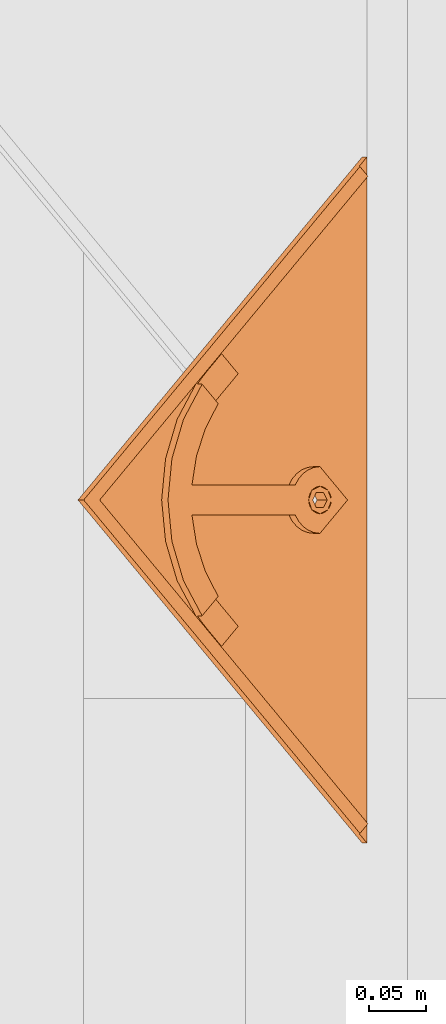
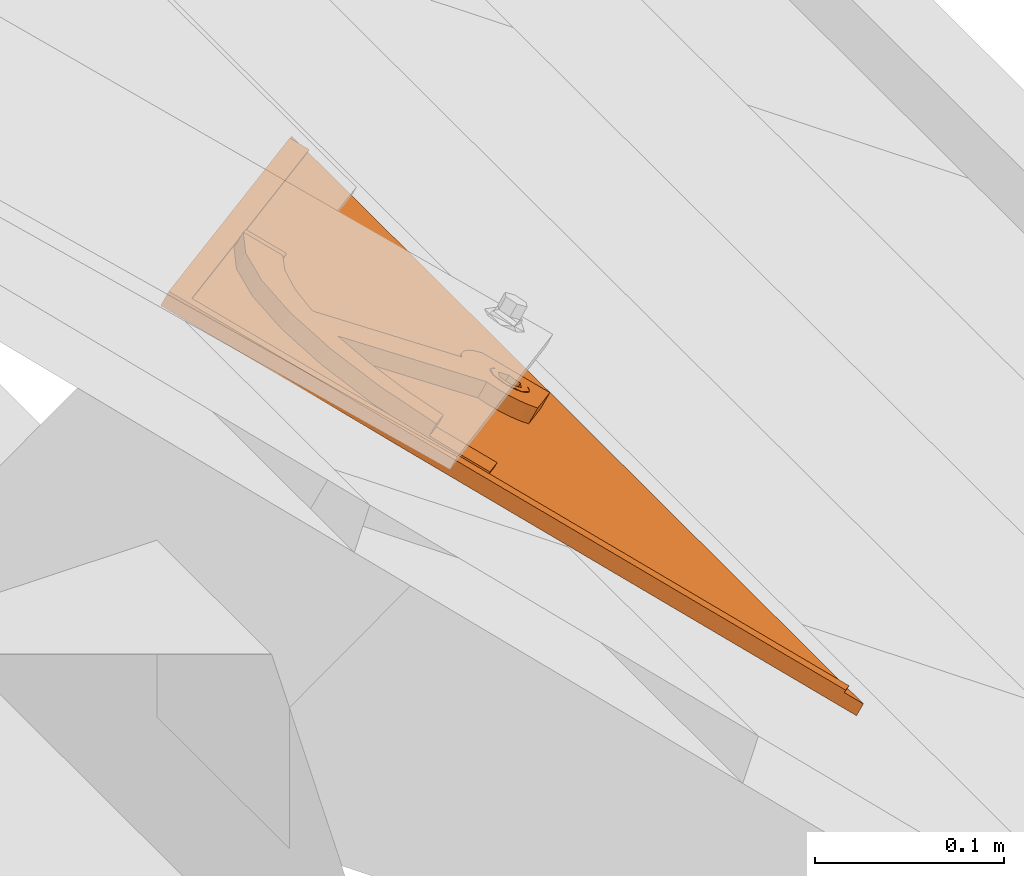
# One storey, part 118 of 133: 1 proxy.
"""IFC2X3 building model written with IfcOpenShell, lengths in millimetres."""

from ifc_helpers import new_model, entity, si_unit, converted_unit, derived_unit, direction, frame, origin, place, context, subcontext, project, spatial, faceted_brep, source, transform, mapped, material, material_list, type_object, type_shapes, element, save


model = new_model("IFC2X3")

# Units and contexts
model_context = context("Model", 3, precision=0.01, world=origin(), true_north=direction((6.12303176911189e-17, 1.0)))
body_context = subcontext(model_context, "Body", "Model", "MODEL_VIEW")
ifc_project = project(units=[si_unit("LENGTHUNIT", "METRE", prefix="MILLI"), si_unit("AREAUNIT", "SQUARE_METRE"), si_unit("VOLUMEUNIT", "CUBIC_METRE"), converted_unit("PLANEANGLEUNIT", "DEGREE", entity("IfcRatioMeasure", 0.0174532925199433), si_unit("PLANEANGLEUNIT", "RADIAN"), dimensions=[0, 0, 0, 0, 0, 0, 0]), si_unit("MASSUNIT", "GRAM", prefix="KILO"), derived_unit("MASSDENSITYUNIT", [(si_unit("MASSUNIT", "GRAM", prefix="KILO"), 1), (si_unit("LENGTHUNIT", "METRE"), -3)]), si_unit("TIMEUNIT", "SECOND"), si_unit("FREQUENCYUNIT", "HERTZ"), si_unit("THERMODYNAMICTEMPERATUREUNIT", "DEGREE_CELSIUS"), derived_unit("THERMALTRANSMITTANCEUNIT", [(si_unit("MASSUNIT", "GRAM", prefix="KILO"), 1), (si_unit("THERMODYNAMICTEMPERATUREUNIT", "KELVIN"), -1), (si_unit("TIMEUNIT", "SECOND"), -3)]), derived_unit("VOLUMETRICFLOWRATEUNIT", [(si_unit("LENGTHUNIT", "METRE"), 3), (si_unit("TIMEUNIT", "SECOND"), -1)]), si_unit("ELECTRICCURRENTUNIT", "AMPERE"), si_unit("ELECTRICVOLTAGEUNIT", "VOLT"), si_unit("POWERUNIT", "WATT"), si_unit("FORCEUNIT", "NEWTON", prefix="KILO"), si_unit("ILLUMINANCEUNIT", "LUX"), si_unit("LUMINOUSFLUXUNIT", "LUMEN"), si_unit("LUMINOUSINTENSITYUNIT", "CANDELA"), derived_unit("USERDEFINED", [(si_unit("MASSUNIT", "GRAM", prefix="KILO"), -1), (si_unit("LENGTHUNIT", "METRE"), -2), (si_unit("TIMEUNIT", "SECOND"), 3), (si_unit("LUMINOUSFLUXUNIT", "LUMEN"), 1)]), derived_unit("LINEARVELOCITYUNIT", [(si_unit("LENGTHUNIT", "METRE"), 1), (si_unit("TIMEUNIT", "SECOND"), -1)]), si_unit("PRESSUREUNIT", "PASCAL"), derived_unit("USERDEFINED", [(si_unit("LENGTHUNIT", "METRE"), -2), (si_unit("MASSUNIT", "GRAM", prefix="KILO"), 1), (si_unit("TIMEUNIT", "SECOND"), -2)])], contexts=[model_context])

# Site, building, storey
site_placement = place(None, origin())
site = spatial("IfcSite", under=ifc_project, at=site_placement, Name="Default", CompositionType="ELEMENT")
building_placement = place(site_placement, origin())
building = spatial("IfcBuilding", under=site, at=building_placement, CompositionType="ELEMENT")
storey_placement = place(building_placement, origin())
storey = spatial("IfcBuildingStorey", under=building, at=storey_placement, Name="Level 1", CompositionType="ELEMENT", Elevation=0.0)

# Proxy
ifc_material_1 = material(Name="Rubber - Sunstyle - Black")
ifc_material_2 = material(Name="Glass - Sunstyle - Tainted Black")
ifc_material_list_1 = material_list([ifc_material_1, ifc_material_2])
ifc_material_list_2 = material_list([ifc_material_1, ifc_material_2])
building_element_proxy_type = type_object("IfcBuildingElementProxyType", Name="Shingle Bottom Small - Black", PredefinedType="NOTDEFINED", material=ifc_material_list_2)
shared_shape = source(origin(), body_context, "Body", "Brep", [
    faceted_brep([(302.08842791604, 44.9093317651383, 22.0558382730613), (302.08842791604, 49.408700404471, 21.980485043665), (293.484723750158, 48.4726030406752, 21.9961623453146), (310.692132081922, 48.4726030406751, 21.9961623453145), (308.728656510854, 53.2419006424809, 21.9162884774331), (314.255903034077, 57.0751008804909, 21.8520919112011), (308.728656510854, 60.9083011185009, 21.7878953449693), (310.692132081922, 65.6775987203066, 21.7080214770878), (302.08842791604, 64.7415013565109, 21.7236987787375), (302.08842791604, 69.2408699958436, 21.6483455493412), (293.484723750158, 65.6775987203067, 21.708021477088), (295.448199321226, 60.908301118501, 21.7878953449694), (289.920952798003, 57.0751008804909, 21.8520919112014), (295.448199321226, 53.2419006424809, 21.9162884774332), (295.448199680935, 60.6403782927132, 5.79013870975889), (302.08842791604, 64.473578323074, 5.72594214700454), (295.448199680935, 52.9739782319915, 5.91853183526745), (302.08842791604, 49.1407782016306, 5.98272839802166), (308.728656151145, 52.9739782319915, 5.91853183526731), (308.728656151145, 60.6403782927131, 5.79013870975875), (293.484723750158, 48.2046804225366, 5.99840570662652), (302.08842791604, 44.6414091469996, 6.05808163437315), (289.920952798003, 56.8071782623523, 5.85433527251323), (293.484723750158, 65.4096761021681, 5.71026483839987), (302.08842791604, 68.972947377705, 5.65058891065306), (310.692132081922, 65.409676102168, 5.71026483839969), (314.255903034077, 56.8071782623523, 5.85433527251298), (310.692132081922, 48.2046804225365, 5.99840570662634)], [[[0, 1, 2]], [[1, 0, 3]], [[3, 4, 1]], [[4, 3, 5]], [[6, 4, 5]], [[5, 7, 6]], [[7, 8, 6]], [[8, 7, 9]], [[8, 9, 10]], [[10, 11, 8]], [[12, 11, 10]], [[2, 13, 12]], [[12, 13, 11]], [[13, 2, 1]], [[8, 11, 14, 15]], [[11, 13, 16, 14]], [[13, 1, 17, 16]], [[1, 4, 18, 17]], [[4, 6, 19, 18]], [[6, 8, 15, 19]], [[20, 17, 21]], [[17, 20, 16]], [[22, 16, 20]], [[14, 16, 22]], [[23, 14, 22]], [[15, 14, 23]], [[23, 24, 15]], [[24, 25, 15]], [[19, 15, 25]], [[19, 25, 26]], [[26, 18, 19]], [[26, 27, 18]], [[17, 18, 27]], [[27, 21, 17]], [[24, 23, 10, 9]], [[10, 23, 22, 12]], [[20, 21, 0, 2]], [[20, 2, 12, 22]], [[21, 27, 3, 0]], [[3, 27, 26, 5]], [[25, 24, 9, 7]], [[25, 7, 5, 26]]]),
    faceted_brep([(587.35835892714, 0.0, 12.5593198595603), (595.843045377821, 8.4846864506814, 12.4172224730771), (595.843045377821, 8.50980419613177, 13.9170121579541), (587.35835892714, 0.0251177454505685, 14.0591095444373), (302.088750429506, 285.189618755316, 7.7831033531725), (16.8191419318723, 0.0, 12.5593198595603), (8.33445548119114, 8.48468645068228, 12.4172224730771), (302.088750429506, 302.156612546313, 7.49894842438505), (302.088750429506, 302.181730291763, 8.9987381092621), (8.33445548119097, 8.50980419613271, 13.9170121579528), (16.8191419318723, 0.0251177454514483, 14.0591095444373), (302.088750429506, 285.214736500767, 9.28289303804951)], [[[0, 1, 2, 3]], [[1, 0, 4, 5, 6, 7]], [[2, 1, 7, 8]], [[3, 2, 8, 9, 10, 11]], [[0, 3, 11, 4]], [[5, 10, 9, 6]], [[8, 7, 6, 9]], [[4, 11, 10, 5]]]),
    faceted_brep([(302.088750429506, 302.156612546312, 7.49894842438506), (305.194256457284, 68.3255429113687, 11.4150370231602), (308.088427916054, 67.1269059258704, 11.4351112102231), (302.088427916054, 68.7343756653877, 11.4081900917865), (310.573709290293, 65.2201498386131, 11.4670446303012), (298.982599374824, 68.3255429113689, 11.4150370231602), (296.088427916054, 67.1269059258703, 11.4351112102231), (293.603146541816, 65.2201498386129, 11.4670446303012), (312.480732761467, 62.7352169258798, 11.5086610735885), (604.177500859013, 0.152567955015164, 12.5567647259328), (291.696123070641, 62.7352169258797, 11.5086610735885), (0.0, 0.152567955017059, 12.5567647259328), (290.497318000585, 59.8414512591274, 11.5571244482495), (290.088427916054, 56.7360581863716, 11.6091320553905), (290.497318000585, 53.6306651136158, 11.6611396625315), (291.696123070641, 50.7368994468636, 11.7096030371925), (293.603146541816, 48.2519665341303, 11.7512194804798), (296.088427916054, 46.3452104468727, 11.7831529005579), (298.982599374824, 45.1465734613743, 11.8032270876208), (302.088427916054, 44.7377407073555, 11.8100740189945), (313.679537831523, 59.8414512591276, 11.5571244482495), (314.088427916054, 56.7360581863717, 11.6091320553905), (313.679537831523, 53.6306651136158, 11.6611396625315), (312.480732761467, 50.7368994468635, 11.7096030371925), (310.573709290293, 48.2519665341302, 11.7512194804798), (308.088427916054, 46.3452104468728, 11.7831529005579), (305.194256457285, 45.1465734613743, 11.8032270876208), (0.0, 0.0269792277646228, 5.0578163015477), (290.088427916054, 56.6104694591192, 4.11018363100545), (290.497318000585, 53.5050763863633, 4.16219123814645), (290.497318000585, 59.7158625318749, 4.05817602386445), (291.696123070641, 50.6113107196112, 4.21065461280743), (291.696123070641, 62.6096281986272, 4.00971264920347), (302.088750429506, 302.031023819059, 0.0), (293.603146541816, 48.1263778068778, 4.25227105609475), (296.088427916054, 46.2196217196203, 4.28420447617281), (298.982599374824, 45.0209847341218, 4.30427866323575), (302.088427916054, 44.612151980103, 4.31112559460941), (604.177500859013, 0.0269792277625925, 5.05781630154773), (293.603146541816, 65.0945611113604, 3.96809620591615), (296.088427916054, 67.0013171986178, 3.93616278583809), (298.982599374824, 68.1999541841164, 3.91608859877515), (302.088427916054, 68.6087869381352, 3.90924166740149), (305.194256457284, 68.1999541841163, 3.91608859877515), (308.088427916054, 67.0013171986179, 3.93616278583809), (310.573709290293, 65.0945611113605, 3.96809620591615), (312.480732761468, 62.6096281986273, 4.00971264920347), (305.194256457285, 45.0209847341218, 4.30427866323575), (308.088427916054, 46.2196217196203, 4.28420447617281), (313.679537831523, 59.7158625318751, 4.05817602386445), (314.088427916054, 56.6104694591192, 4.11018363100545), (313.679537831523, 53.5050763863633, 4.16219123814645), (312.480732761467, 50.611310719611, 4.21065461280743), (310.573709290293, 48.1263778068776, 4.25227105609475)], [[[0, 1, 2]], [[1, 0, 3]], [[0, 2, 4]], [[5, 3, 0]], [[6, 5, 0]], [[0, 7, 6]], [[8, 0, 4]], [[0, 8, 9]], [[7, 0, 10]], [[0, 11, 10]], [[12, 10, 11]], [[11, 13, 12]], [[13, 11, 14]], [[15, 14, 11]], [[11, 16, 15]], [[17, 16, 11]], [[17, 11, 18]], [[19, 18, 11]], [[19, 11, 9]], [[9, 8, 20]], [[20, 21, 9]], [[21, 22, 9]], [[22, 23, 9]], [[9, 23, 24]], [[24, 25, 9]], [[25, 26, 9]], [[9, 26, 19]], [[27, 28, 29]], [[28, 27, 30]], [[27, 29, 31]], [[32, 30, 27]], [[32, 27, 33]], [[31, 34, 27]], [[34, 35, 27]], [[35, 36, 27]], [[36, 37, 27]], [[27, 37, 38]], [[33, 39, 32]], [[40, 39, 33]], [[41, 40, 33]], [[42, 41, 33]], [[33, 43, 42]], [[43, 33, 44]], [[45, 44, 33]], [[33, 46, 45]], [[46, 33, 38]], [[38, 37, 47]], [[47, 48, 38]], [[49, 46, 38]], [[38, 50, 49]], [[50, 38, 51]], [[52, 51, 38]], [[53, 52, 38]], [[53, 38, 48]], [[11, 0, 33, 27]], [[0, 9, 38, 33]], [[13, 28, 30, 12]], [[12, 30, 32, 10]], [[6, 7, 39, 40]], [[39, 7, 10, 32]], [[5, 6, 40, 41]], [[5, 41, 42, 3]], [[3, 42, 43, 1]], [[1, 43, 44, 2]], [[8, 4, 45, 46]], [[45, 4, 2, 44]], [[20, 8, 46, 49]], [[20, 49, 50, 21]], [[21, 50, 51, 22]], [[22, 51, 52, 23]], [[25, 24, 53, 48]], [[53, 24, 23, 52]], [[26, 25, 48, 47]], [[26, 47, 37, 19]], [[19, 37, 36, 18]], [[18, 36, 35, 17]], [[15, 16, 34, 31]], [[34, 16, 17, 35]], [[14, 15, 31, 29]], [[14, 29, 28, 13]], [[9, 11, 27, 38]]]),
    faceted_brep([(190.819384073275, 138.646056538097, 12.7376939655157), (217.144031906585, 164.967013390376, 12.2968834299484), (200.060856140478, 182.04779392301, 12.0108228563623), (193.80845410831, 176.686146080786, 12.100617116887), (187.837458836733, 171.012871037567, 12.1956303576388), (173.141714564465, 156.321247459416, 12.4416784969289), (431.035141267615, 156.321247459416, 12.4416784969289), (416.339396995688, 171.012871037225, 12.1956303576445), (410.36840172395, 176.686146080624, 12.1006171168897), (404.115999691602, 182.047793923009, 12.0108228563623), (387.031626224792, 164.968210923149, 12.2968633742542), (413.357471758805, 138.646056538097, 12.7376939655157), (296.088427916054, 67.294357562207, 21.4337091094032), (288.788427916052, 83.1076295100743, 21.1688761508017), (283.384321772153, 79.569581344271, 21.2281296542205), (293.603146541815, 65.3876014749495, 21.4656425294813), (298.982599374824, 68.4929945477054, 21.4136349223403), (302.088427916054, 68.9018273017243, 21.4067879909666), (315.388427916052, 83.107629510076, 21.1688761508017), (305.194256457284, 68.4929945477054, 21.4136349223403), (308.088427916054, 67.2943575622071, 21.4337091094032), (320.792534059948, 79.5695813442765, 21.2281296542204), (310.573709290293, 65.3876014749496, 21.4656425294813), (325.293078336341, 74.9365758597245, 21.3057209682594), (312.480732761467, 62.9026685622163, 21.5072589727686), (328.672647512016, 69.4324252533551, 21.3979017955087), (313.679537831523, 60.0089028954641, 21.5557223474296), (330.767980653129, 63.323025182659, 21.500219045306), (314.088427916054, 56.9035098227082, 21.6077299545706), (331.477855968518, 56.9035098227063, 21.6077299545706), (313.679537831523, 53.7981167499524, 21.6597375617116), (312.480732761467, 50.9043510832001, 21.7082009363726), (310.573709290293, 48.4194181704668, 21.7498173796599), (302.08842791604, 27.5182024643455, 22.0998607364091), (308.088427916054, 46.5126620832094, 21.7817507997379), (305.194256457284, 45.314025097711, 21.8018249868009), (302.088427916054, 44.9051923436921, 21.8086719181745), (298.982599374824, 45.314025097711, 21.8018249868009), (296.088427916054, 46.5126620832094, 21.7817507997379), (293.603146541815, 48.4194181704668, 21.7498173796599), (272.69899986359, 56.903509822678, 21.6077299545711), (291.696123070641, 50.9043510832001, 21.7082009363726), (290.497318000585, 53.7981167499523, 21.6597375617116), (290.088427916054, 56.9035098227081, 21.6077299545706), (273.408875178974, 63.3230251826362, 21.5002190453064), (290.497318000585, 60.008902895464, 21.5557223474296), (275.504208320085, 69.4324252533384, 21.397901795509), (291.696123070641, 62.9026685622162, 21.5072589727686), (278.883777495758, 74.9365758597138, 21.3057209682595), (288.788427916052, 192.984512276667, 19.3287117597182), (315.388427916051, 192.984512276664, 19.3287117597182), (302.088427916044, 218.456125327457, 18.9021256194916), (338.579268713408, 214.282159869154, 18.9720291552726), (340.858170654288, 188.169632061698, 19.4093490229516), (373.184513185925, 201.975945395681, 19.1781276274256), (365.012761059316, 178.765998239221, 19.5668364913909), (404.115999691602, 182.173382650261, 19.5097712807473), (387.032823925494, 165.092602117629, 19.7958318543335), (265.59758711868, 214.28215986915, 18.9720291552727), (263.318685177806, 188.169632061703, 19.4093490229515), (230.992342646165, 201.975945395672, 19.1781276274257), (239.164094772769, 178.765998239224, 19.5668364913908), (200.06085614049, 182.173382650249, 19.5097712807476), (217.144031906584, 165.092602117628, 19.7958318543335), (302.08842791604, 27.3507508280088, 12.1012628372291), (302.088427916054, 44.7377407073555, 11.8100740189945), (305.194256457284, 45.1465734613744, 11.8032270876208), (298.982599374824, 45.1465734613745, 11.8032270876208), (308.088427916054, 46.3452104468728, 11.7831529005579), (310.573709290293, 48.2519665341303, 11.7512194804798), (331.477855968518, 56.7360581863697, 11.6091320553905), (296.088427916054, 46.3452104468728, 11.7831529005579), (293.603146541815, 48.2519665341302, 11.7512194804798), (272.69899986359, 56.7360581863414, 11.609132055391), (291.696123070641, 50.7368994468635, 11.7096030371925), (290.497318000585, 53.6306651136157, 11.6611396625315), (290.088427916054, 56.7360581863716, 11.6091320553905), (273.408875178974, 63.1555735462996, 11.5016211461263), (290.497318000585, 59.8414512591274, 11.5571244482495), (275.504208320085, 69.2649736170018, 11.3993038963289), (291.696123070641, 62.7352169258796, 11.5086610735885), (278.883777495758, 74.7691242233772, 11.3071230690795), (293.603146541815, 65.2201498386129, 11.4670446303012), (283.384321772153, 79.4021297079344, 11.2295317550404), (296.088427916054, 67.1269059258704, 11.4351112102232), (288.788427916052, 82.9401778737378, 11.1702782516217), (298.982599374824, 68.3255429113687, 11.4150370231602), (302.088427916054, 68.7343756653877, 11.4081900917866), (315.388427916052, 82.9401778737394, 11.1702782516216), (288.788427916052, 192.81706064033, 9.33011386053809), (315.388427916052, 192.817060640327, 9.33011386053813), (302.088427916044, 218.28867369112, 8.90352772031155), (265.59758711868, 214.114708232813, 8.97343125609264), (263.318685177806, 188.002180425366, 9.41075112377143), (230.992342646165, 201.808493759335, 9.17952972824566), (239.164094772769, 178.598546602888, 9.56823859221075), (200.06085614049, 182.005931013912, 9.51117338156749), (217.145229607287, 164.926348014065, 9.79721389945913), (193.80845410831, 176.644283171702, 9.60096764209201), (187.837458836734, 170.971008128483, 9.69598088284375), (190.819384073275, 138.604193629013, 10.2380444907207), (173.141714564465, 156.279384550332, 9.94202902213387), (338.579268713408, 214.114708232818, 8.97343125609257), (340.858170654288, 188.002180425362, 9.41075112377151), (373.184513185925, 201.808493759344, 9.17952972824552), (365.012761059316, 178.598546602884, 9.5682385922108), (404.115999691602, 182.005931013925, 9.51117338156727), (387.032823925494, 164.925150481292, 9.79723395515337), (410.36840172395, 176.64428317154, 9.60096764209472), (416.339396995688, 170.971008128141, 9.69598088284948), (413.357471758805, 138.604193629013, 10.2380444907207), (431.035141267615, 156.279384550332, 9.94202902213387), (305.194256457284, 68.3255429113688, 11.4150370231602), (308.088427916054, 67.1269059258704, 11.4351112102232), (320.792534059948, 79.4021297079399, 11.2295317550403), (310.573709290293, 65.220149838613, 11.4670446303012), (325.293078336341, 74.7691242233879, 11.3071230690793), (312.480732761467, 62.7352169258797, 11.5086610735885), (328.672647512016, 69.2649736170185, 11.3993038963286), (313.679537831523, 59.8414512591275, 11.5571244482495), (330.767980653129, 63.1555735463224, 11.5016211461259), (314.088427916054, 56.7360581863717, 11.6091320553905), (312.480732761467, 50.7368994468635, 11.7096030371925), (313.679537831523, 53.6306651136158, 11.6611396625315)], [[[0, 1, 2, 3, 4, 5]], [[6, 7, 8, 9, 10, 11]], [[12, 13, 14]], [[12, 14, 15]], [[16, 13, 12]], [[17, 13, 16]], [[18, 13, 17]], [[17, 19, 18]], [[19, 20, 18]], [[20, 21, 18]], [[21, 20, 22]], [[21, 22, 23]], [[24, 23, 22]], [[23, 24, 25]], [[24, 26, 25]], [[27, 25, 26]], [[26, 28, 27]], [[29, 27, 28]], [[28, 30, 29]], [[30, 31, 29]], [[29, 31, 32]], [[32, 33, 29]], [[32, 34, 33]], [[35, 33, 34]], [[36, 33, 35]], [[33, 36, 37]], [[38, 33, 37]], [[38, 39, 33]], [[40, 33, 39]], [[41, 40, 39]], [[41, 42, 40]], [[42, 43, 40]], [[43, 44, 40]], [[45, 44, 43]], [[45, 46, 44]], [[45, 47, 46]], [[48, 46, 47]], [[48, 47, 15]], [[48, 15, 14]], [[18, 49, 13]], [[50, 49, 18]], [[51, 49, 50]], [[50, 52, 51]], [[50, 53, 52]], [[52, 53, 54]], [[53, 55, 54]], [[56, 54, 55]], [[57, 56, 55]], [[58, 49, 51]], [[49, 58, 59]], [[60, 59, 58]], [[60, 61, 59]], [[61, 60, 62]], [[62, 63, 61]], [[64, 65, 66]], [[65, 64, 67]], [[64, 66, 68]], [[68, 69, 64]], [[64, 69, 70]], [[71, 67, 64]], [[71, 64, 72]], [[72, 64, 73]], [[73, 74, 72]], [[74, 73, 75]], [[75, 73, 76]], [[77, 76, 73]], [[76, 77, 78]], [[78, 77, 79]], [[80, 78, 79]], [[81, 80, 79]], [[82, 80, 81]], [[83, 82, 81]], [[83, 84, 82]], [[85, 84, 83]], [[85, 86, 84]], [[87, 86, 85]], [[88, 87, 85]], [[89, 88, 85]], [[88, 89, 90]], [[89, 91, 90]], [[91, 89, 92]], [[93, 92, 89]], [[92, 93, 94]], [[95, 94, 93]], [[96, 94, 95]], [[95, 97, 96]], [[97, 98, 96]], [[98, 97, 99]], [[97, 100, 99]], [[99, 100, 101]], [[90, 91, 102]], [[103, 90, 102]], [[103, 102, 104]], [[105, 103, 104]], [[106, 105, 104]], [[107, 105, 106]], [[106, 108, 107]], [[109, 107, 108]], [[110, 107, 109]], [[109, 111, 110]], [[112, 87, 88]], [[113, 112, 88]], [[114, 113, 88]], [[115, 113, 114]], [[115, 114, 116]], [[116, 117, 115]], [[117, 116, 118]], [[118, 119, 117]], [[120, 119, 118]], [[121, 120, 70]], [[120, 121, 119]], [[70, 69, 122]], [[122, 123, 70]], [[123, 121, 70]], [[13, 49, 89, 85]], [[14, 13, 85, 83]], [[48, 14, 83, 81]], [[81, 79, 46, 48]], [[44, 46, 79, 77]], [[40, 44, 77, 73]], [[33, 40, 73, 64]], [[0, 5, 101, 100]], [[29, 33, 64, 70]], [[6, 11, 110, 111]], [[27, 29, 70, 120]], [[25, 27, 120, 118]], [[118, 116, 23, 25]], [[21, 23, 116, 114]], [[18, 21, 114, 88]], [[50, 18, 88, 90]], [[9, 106, 104, 54, 56]], [[52, 54, 104, 102]], [[51, 52, 102, 91]], [[58, 51, 91, 92]], [[94, 96, 2, 62, 60]], [[60, 58, 92, 94]], [[43, 76, 78, 45]], [[45, 78, 80, 47]], [[12, 15, 82, 84]], [[80, 82, 15, 47]], [[16, 12, 84, 86]], [[87, 17, 16, 86]], [[19, 112, 113, 20]], [[20, 113, 115, 22]], [[26, 24, 117, 119]], [[115, 117, 24, 22]], [[28, 26, 119, 121]], [[19, 17, 87, 112]], [[28, 121, 123, 30]], [[30, 123, 122, 31]], [[34, 32, 69, 68]], [[122, 69, 32, 31]], [[35, 34, 68, 66]], [[65, 36, 35, 66]], [[37, 67, 71, 38]], [[38, 71, 72, 39]], [[42, 41, 74, 75]], [[72, 74, 41, 39]], [[43, 42, 75, 76]], [[37, 36, 65, 67]], [[7, 6, 111, 109]], [[7, 109, 108, 8]], [[108, 106, 9, 8]], [[11, 10, 107, 110]], [[1, 0, 100, 97]], [[2, 96, 98, 3]], [[98, 99, 4, 3]], [[5, 4, 99, 101]], [[63, 62, 2, 1]], [[56, 57, 10]], [[10, 9, 56]], [[1, 95, 61, 63]], [[1, 97, 95]], [[93, 89, 49, 59]], [[95, 93, 59, 61]], [[90, 103, 53, 50]], [[103, 105, 55, 53]], [[10, 57, 55]], [[107, 10, 105]], [[55, 105, 10]]]),
])
type_shapes(building_element_proxy_type, [shared_shape])
proxy_placement = place(storey_placement, frame((4462.89353187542, 528.47209703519, 548.443706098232), z_axis=(0.573576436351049, 0.0, 0.81915204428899), x_axis=(0.0, 1.0, 0.0)))
element("IfcBuildingElementProxy", 1, at=proxy_placement, inside=storey, type_object=building_element_proxy_type, material=ifc_material_list_1, Name="Roofing_Panels_SunStyle_Tile_Shingle-Bottom-Small:Shingle Bottom Small - Black", ObjectType="Roofing_Panels_SunStyle_Tile_Shingle-Bottom-Small:Shingle Bottom Small - Black", context=body_context, shape_type="MappedRepresentation", body=[
    mapped(shared_shape, transform((0.0, 0.0, 0.0), scale=1.0)),
])

save(model, "model.ifc")
